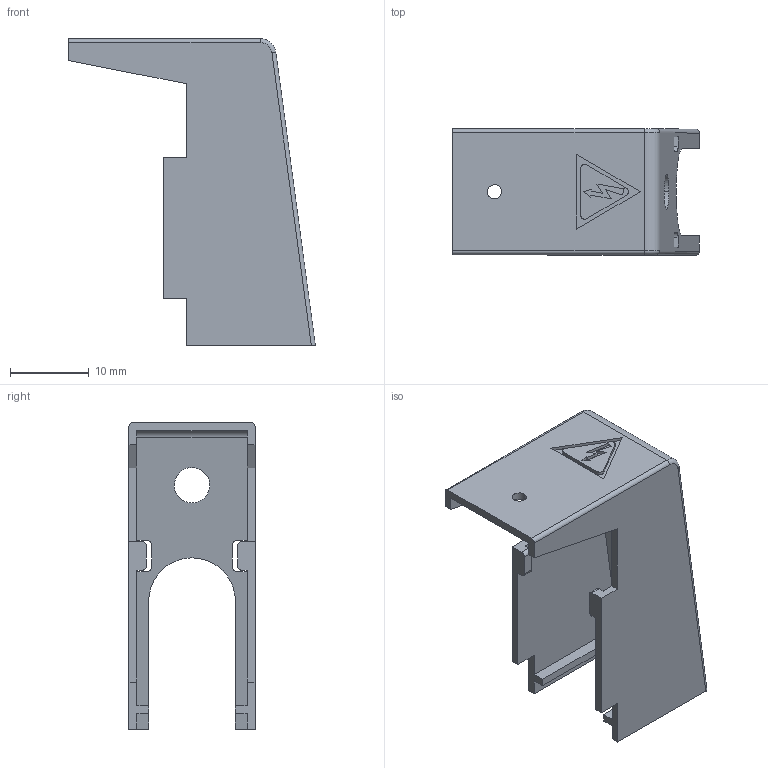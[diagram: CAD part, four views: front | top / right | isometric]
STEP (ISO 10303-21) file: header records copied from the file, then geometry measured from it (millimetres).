
FILE_DESCRIPTION (( 'STEP AP203' ), '1' );
FILE_NAME ('NF2-80TS1.STEP', '2024-03-01T06:32:54', ( 'wzjh' ), ( '' ), 'SwSTEP 2.0', 'SolidWorks 2023', '' );
FILE_SCHEMA (( 'CONFIG_CONTROL_DESIGN' ));
Length unit declared in the file: millimetre
Products named in the file (1): NF2-80TS1
Bounding box: 31.3 x 16 x 38.91 mm (x, y, z)
Volume: 1975.1 mm3; surface area: 4228 mm2
Topology: 1 solids, 1 shells, 91 faces, 260 edges, 172 vertices
Faces by surface type: plane 65, cylinder 18, bspline 6, torus 2
Entity records: 3250 total; most frequent: CARTESIAN_POINT 869, ORIENTED_EDGE 520, DIRECTION 415, EDGE_CURVE 260, VECTOR 203, LINE 203, VERTEX_POINT 172, AXIS2_PLACEMENT_3D 106
